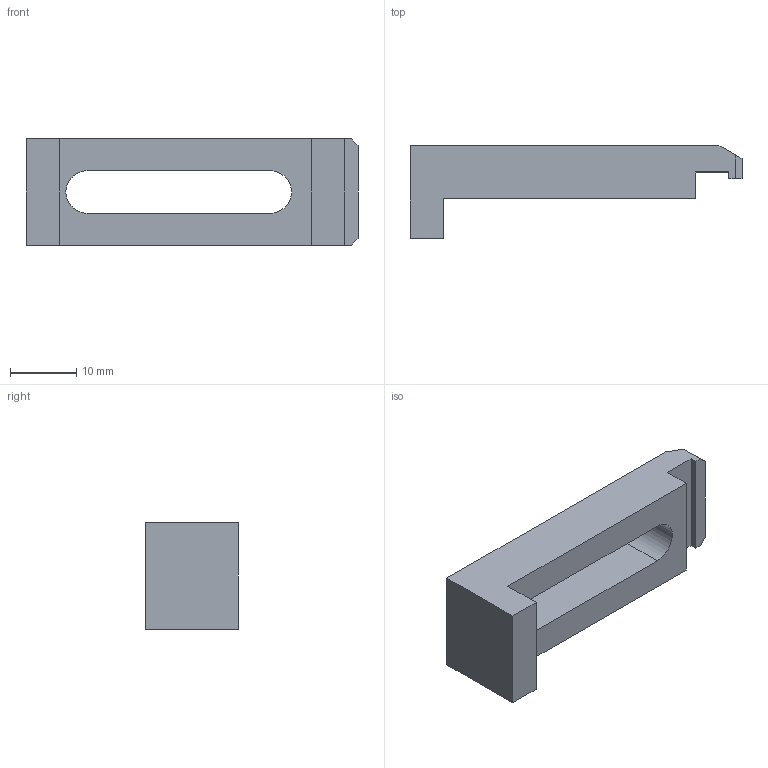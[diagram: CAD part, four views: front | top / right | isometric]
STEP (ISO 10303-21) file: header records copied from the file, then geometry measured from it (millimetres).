
FILE_DESCRIPTION (( 'STEP AP203' ), '1' );
FILE_NAME ('3TC6.STEP', '2010-02-04T12:39:53', ( 'Darius' ), ( '' ), 'SwSTEP 2.0', 'SolidWorks 2003240', '' );
FILE_SCHEMA (( 'CONFIG_CONTROL_DESIGN' ));
Length unit declared in the file: millimetre
Products named in the file (1): 3TC6
Bounding box: 50 x 14 x 16 mm (x, y, z)
Volume: 4734.9 mm3; surface area: 3037 mm2
Topology: 1 solids, 1 shells, 19 faces, 51 edges, 34 vertices
Faces by surface type: plane 17, cylinder 2
Entity records: 670 total; most frequent: CARTESIAN_POINT 105, ORIENTED_EDGE 102, DIRECTION 95, EDGE_CURVE 51, VECTOR 47, LINE 47, VERTEX_POINT 34, AXIS2_PLACEMENT_3D 24
